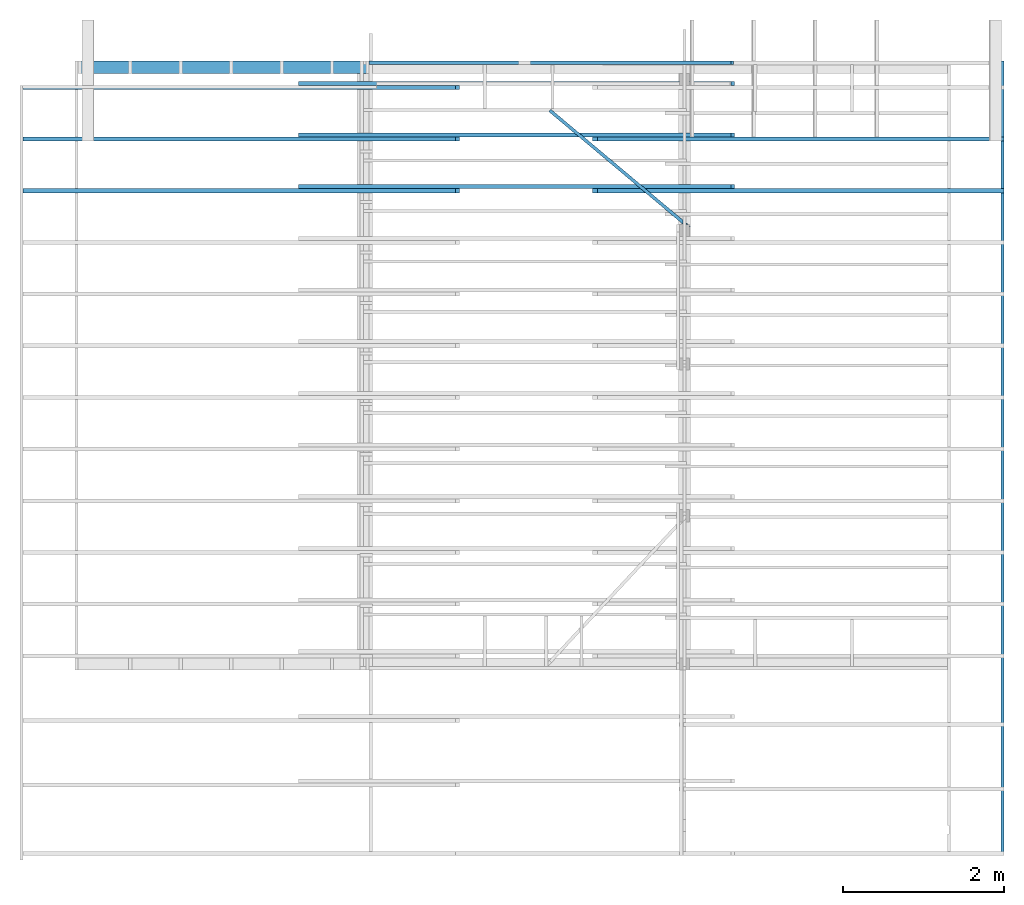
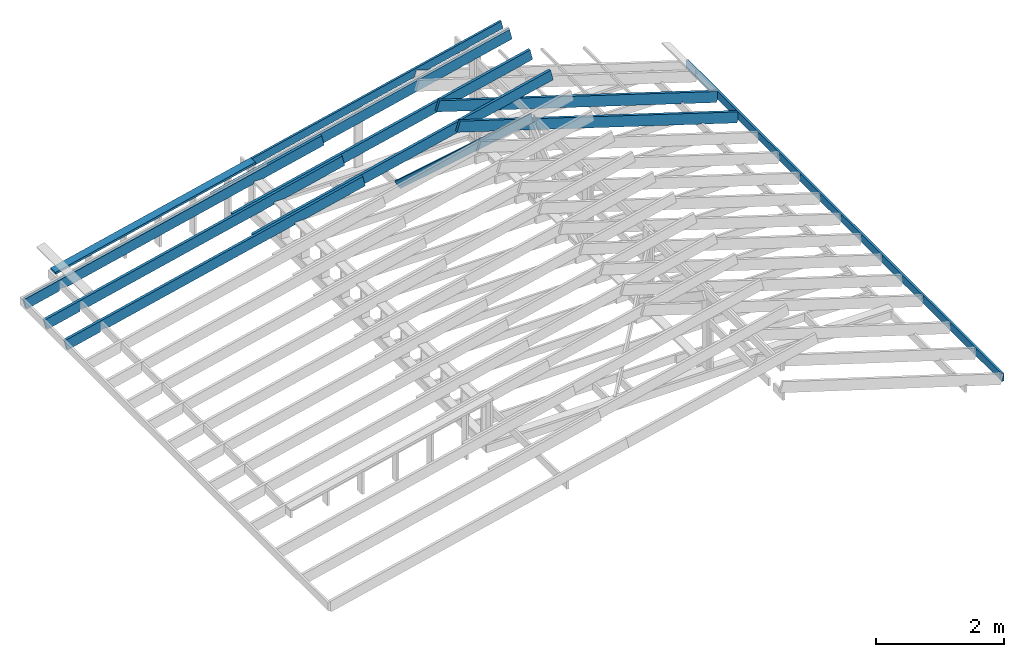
# One storey, part 5 of 6: 12 beams.
"""IFC4 building model written with IfcOpenShell, lengths in millimetres."""

from ifc_helpers import new_model, si_unit, derived_unit, frame, origin_with_axes, place, context, subcontext, project, spatial, polygons, source, transform, mapped, material, type_object, element, save


model = new_model("IFC4")

# Units and contexts
model_context = context("Model", 3, precision=1e-06, world=origin_with_axes())
body_context = subcontext(model_context, "Body", "Model", "MODEL_VIEW")
ifc_project = project(units=[si_unit("LENGTHUNIT", "METRE", prefix="MILLI"), si_unit("AREAUNIT", "SQUARE_METRE"), si_unit("VOLUMEUNIT", "CUBIC_METRE"), si_unit("MASSUNIT", "GRAM", prefix="KILO"), si_unit("ELECTRICVOLTAGEUNIT", "VOLT", prefix="KILO"), si_unit("THERMODYNAMICTEMPERATUREUNIT", "DEGREE_CELSIUS"), si_unit("PRESSUREUNIT", "PASCAL", prefix="MEGA"), si_unit("PLANEANGLEUNIT", "RADIAN"), derived_unit("THERMALCONDUCTANCEUNIT", [(si_unit("POWERUNIT", "WATT"), 1), (si_unit("LENGTHUNIT", "METRE"), -1), (si_unit("THERMODYNAMICTEMPERATUREUNIT", "KELVIN"), -1)]), derived_unit("MASSDENSITYUNIT", [(si_unit("MASSUNIT", "GRAM", prefix="KILO"), 1), (si_unit("VOLUMEUNIT", "CUBIC_METRE"), -1)])], contexts=[model_context])

# Site, building, storey
site_placement = place(None, origin_with_axes())
site = spatial("IfcSite", under=ifc_project, at=site_placement, CompositionType="ELEMENT")
building_placement = place(site_placement, origin_with_axes())
building = spatial("IfcBuilding", under=site, at=building_placement, CompositionType="ELEMENT")
storey_placement = place(building_placement, frame((0.0, 0.0, 2620.0), z_axis=(0.0, 0.0, 1.0), x_axis=(1.0, 0.0, 0.0)))
storey = spatial("IfcBuildingStorey", under=building, at=storey_placement, Name="Кровля", CompositionType="ELEMENT", Elevation=2620.0)

# Beams
ifc_material_1 = material(Name="Древесина жел")
beam_type_1 = type_object("IfcBeamType", Name="Доска 40х150", PredefinedType="BEAM")
shared_shape_1 = source(origin_with_axes(), body_context, "Body", "Tessellation", [
    polygons([(39.99999999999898, -31.899582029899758, 1.4e-14), (25.71674224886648, -52.40841525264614, -1.307e-12), (39.99999999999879, -81.5164140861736, 4e-14), (-1e-13, 3.33e-13, -2674.3665000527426), (39.99999999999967, -81.51641408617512, -2674.366500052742), (39.99999999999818, -149.99999999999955, -2674.3665000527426), (-1.819e-12, -149.9999999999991, -2674.3665000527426), (40.00000000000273, -132.60094016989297, -72.55855526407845), (39.99999999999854, -149.99999999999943, -49.344618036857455), (40.00000000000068, -27.857767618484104, -2635.703725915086), (40.0, 9.09e-13, -2674.3665000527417), (40.000000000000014, -3.4e-14, -41.383476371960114), (40.00000000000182, -102.07149194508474, -114.92925694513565), (0.0, 0.0, 0.0), (-1.833e-12, -149.9999999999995, -48.41103814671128), (9.09e-13, -121.69944072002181, -87.68834659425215), (4.542275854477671, -149.99999999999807, -48.41103814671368), (25.71674224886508, -149.99999999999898, -70.31786388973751), (25.71674224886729, -139.60971645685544, -62.83133166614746)], [[[1, 2, 3]], [[4, 5, 6, 7]], [[8, 1, 3, 9, 6, 5, 10, 11, 12, 13]], [[14, 12, 11, 4]], [[15, 16, 14, 4, 7]], [[17, 15, 7, 6, 9, 18]], [[10, 5, 4]], [[4, 11, 10]], [[14, 16, 13, 12]], [[18, 9, 3, 2, 19]], [[17, 18, 19]], [[15, 17, 19, 8, 13, 16]], [[1, 8, 19, 2]]], closed=True),
    polygons([(39.99999999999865, -121.2337733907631, 6.1e-14), (19.96592859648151, -149.99999999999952, -4.83e-13), (39.99999999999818, -149.99999999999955, -9.09e-13), (39.99999999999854, -149.99999999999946, -20.726988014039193)], [[[1, 2, 3]], [[4, 2, 1]], [[2, 4, 3]], [[4, 1, 3]]], closed=True),
])
beam_1_placement = place(storey_placement, frame((7530.000000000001, 5519.999999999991, 1713.4051771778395), z_axis=(0.621425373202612, -0.52161885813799, 0.584588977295), x_axis=(-0.44775689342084, 0.375843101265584, 0.811329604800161)))
element("IfcBeam", 1, at=beam_1_placement, inside=storey, type_object=beam_type_1, material=ifc_material_1, Name="Балка - Доска 40х150", context=body_context, shape_type="MappedRepresentation", body=[
    mapped(shared_shape_1, transform((0.0, 0.0, 0.0), x_axis=(0.0, -1.0, 0.0), y_axis=(1.0, 0.0, 0.0), z_axis=(0.0, 0.0, 1.0), scale=1.0)),
])
ifc_material_2 = material(Name="Древесина оранж")
beam_type_2 = type_object("IfcBeamType", Name="Доска 50х200", PredefinedType="BEAM")
shared_shape_2 = source(origin_with_axes(), body_context, "Body", "Tessellation", [
    polygons([(-8e-15, -2.13e-13, -4607.735124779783), (-3.638e-12, 22.174739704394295, -4600.756736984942), (-1.819e-12, 34.18218451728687, -4638.911962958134), (-8e-15, -2.19e-13, -4649.669092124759), (0.0, 0.0, -5278.678602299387), (-2.8e-14, 200.0000000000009, -5278.678602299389), (-2.8e-14, 199.9999999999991, -9.09e-13), (0.0, 0.0, 0.0), (-8e-15, -1.27e-13, -720.316293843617), (-5.7e-14, 25.399624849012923, -744.5359803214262), (-8e-15, -1.28e-13, -752.5292390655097), (-50.00000000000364, 22.174739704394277, -4600.756736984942), (-50.0, -9.9e-14, -4607.735124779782), (-50.0, 0.0, 0.0), (-50.00000000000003, 199.9999999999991, -9.09e-13), (-50.00000000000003, 200.0000000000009, -5278.678602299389), (-50.0, 0.0, -5278.678602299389), (-50.0, -1e-13, -4649.669092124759), (-50.00000000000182, 34.182184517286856, -4638.911962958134), (-17.803591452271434, -2.84e-13, -730.2936172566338)], [[[1, 2, 3, 4, 5, 6, 7, 8, 9, 10, 11]], [[12, 13, 14, 15, 16, 17, 18, 19]], [[13, 1, 11, 20, 9, 8, 14]], [[4, 18, 17, 5]], [[20, 11, 10]], [[9, 20, 10]], [[18, 4, 3, 19]], [[12, 19, 3, 2]], [[1, 13, 12, 2]], [[5, 17, 16, 6]], [[15, 7, 6, 16]], [[8, 7, 15, 14]]], closed=True),
])
beam_2_placement = place(storey_placement, frame((6409.770627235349, 5909.999999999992, 1509.9312603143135), z_axis=(-0.953880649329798, 1e-15, 0.300186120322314), x_axis=(0.300186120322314, 0.0, 0.953880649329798)))
element("IfcBeam", 2, at=beam_2_placement, inside=storey, type_object=beam_type_2, material=ifc_material_2, Name="Балка - Доска 50х200", context=body_context, shape_type="MappedRepresentation", body=[
    mapped(shared_shape_2, transform((0.0, 0.0, 0.0), x_axis=(0.0, -1.0, 0.0), y_axis=(1.0, 0.0, 0.0), z_axis=(0.0, 0.0, 1.0), scale=1.0)),
])
shared_shape_3 = source(origin_with_axes(), body_context, "Body", "Tessellation", [
    polygons([(50.000000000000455, 43.089841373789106, -707.6329538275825), (50.0, 2.06e-13, -892.682313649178), (50.0, 4.55e-13, -5499.999999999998), (50.0, 200.00000000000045, -5500.000000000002), (50.0, 200.00000000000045, 0.0), (50.0, 0.0, 0.0), (50.0, 2.08e-13, -716.3066353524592), (50.000000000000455, 4.132081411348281, -698.5614082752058), (-2e-15, -1.9e-14, -892.6823136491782), (6.82e-13, 43.089841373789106, -707.6329538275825), (6.82e-13, 4.132081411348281, -698.5614082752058), (-2e-15, -1.6e-14, -716.3066353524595), (0.0, 0.0, 0.0), (0.0, 200.00000000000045, 0.0), (0.0, 200.0000000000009, -5499.999999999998), (0.0, 0.0, -5500.0)], [[[1, 2, 3, 4, 5, 6, 7, 8]], [[9, 10, 11, 12, 13, 14, 15, 16]], [[2, 9, 16, 3]], [[12, 7, 6, 13]], [[11, 10, 1, 8]], [[7, 12, 11, 8]], [[9, 2, 1, 10]], [[3, 16, 15, 4]], [[14, 5, 4, 15]], [[6, 5, 14, 13]]], closed=True),
])
beam_3_placement = place(storey_placement, frame((2813.077417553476, 6009.999999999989, 615.0417672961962), z_axis=(-0.973943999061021, 0.0, -0.226788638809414), x_axis=(-0.226788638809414, 0.0, 0.973943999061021)))
element("IfcBeam", 3, at=beam_3_placement, inside=storey, type_object=beam_type_2, material=ifc_material_2, Name="Балка - Доска 50х200", context=body_context, shape_type="MappedRepresentation", body=[
    mapped(shared_shape_3, transform((0.0, 0.0, 0.0), x_axis=(0.0, -1.0, 0.0), y_axis=(1.0, 0.0, 0.0), z_axis=(0.0, 0.0, 1.0), scale=1.0)),
])
shared_shape_4 = source(origin_with_axes(), body_context, "Body", "Tessellation", [
    polygons([(0.0, -2.76e-13, -611.6640995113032), (-1.819e-12, 38.957759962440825, -620.7356450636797), (-1.819e-12, 4.939464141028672, -766.8272449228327), (0.0, -2.84e-13, -765.6770613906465), (0.0, -4.61e-13, -4216.306635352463), (4.55e-13, 4.132081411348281, -4198.561408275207), (4.55e-13, 43.089841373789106, -4207.632953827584), (0.0, -4.71e-13, -4392.682313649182), (0.0, -1.364e-12, -5500.000000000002), (0.0, 199.99999999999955, -5500.000000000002), (0.0, 199.99999999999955, 0.0), (0.0, 0.0, 0.0), (-50.00000000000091, 38.957759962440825, -620.7356450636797), (-50.0, -4.7e-14, -611.6640995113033), (-50.0, 0.0, 0.0), (-50.0, 199.99999999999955, 0.0), (-50.0, 199.9999999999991, -5500.000000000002), (-50.0, -4.55e-13, -5500.000000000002), (-50.0, -3.35e-13, -4392.682313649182), (-49.999999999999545, 43.089841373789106, -4207.632953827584), (-49.999999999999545, 4.132081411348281, -4198.561408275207), (-50.0, -3.21e-13, -4216.306635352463), (-50.0, -5.8e-14, -765.6770613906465), (-50.00000000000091, 4.939464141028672, -766.8272449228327)], [[[1, 2, 3, 4, 5, 6, 7, 8, 9, 10, 11, 12]], [[13, 14, 15, 16, 17, 18, 19, 20, 21, 22, 23, 24]], [[14, 1, 12, 15]], [[4, 23, 22, 5]], [[8, 19, 18, 9]], [[21, 20, 7, 6]], [[5, 22, 21, 6]], [[19, 8, 7, 20]], [[23, 4, 3, 24]], [[13, 24, 3, 2]], [[1, 14, 13, 2]], [[9, 18, 17, 10]], [[16, 11, 10, 17]], [[12, 11, 16, 15]]], closed=True),
])
beam_4_placement = place(storey_placement, frame((-595.7265791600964, 5909.999999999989, -178.7184685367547), z_axis=(-0.973943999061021, 0.0, -0.226788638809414), x_axis=(-0.226788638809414, 0.0, 0.973943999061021)))
element("IfcBeam", 4, at=beam_4_placement, inside=storey, type_object=beam_type_2, material=ifc_material_2, Name="Балка - Доска 50х200", context=body_context, shape_type="MappedRepresentation", body=[
    mapped(shared_shape_4, transform((0.0, 0.0, 0.0), x_axis=(0.0, -1.0, 0.0), y_axis=(1.0, 0.0, 0.0), z_axis=(0.0, 0.0, 1.0), scale=1.0)),
])
shared_shape_5 = source(origin_with_axes(), body_context, "Body", "Tessellation", [
    polygons([(-8e-15, -2.13e-13, -4607.735124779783), (-1.819e-12, 22.174739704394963, -4600.756736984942), (-1.819e-12, 34.18218451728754, -4638.911962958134), (-8e-15, -2.19e-13, -4649.669092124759), (0.0, 0.0, -5278.678602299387), (-2.8e-14, 200.0000000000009, -5278.678602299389), (-2.8e-14, 199.9999999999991, -9.09e-13), (0.0, 0.0, 0.0), (-50.00000000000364, 22.17473970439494, -4600.756736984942), (-50.0, -9.9e-14, -4607.735124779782), (-50.0, 0.0, 0.0), (-50.00000000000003, 199.9999999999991, -9.09e-13), (-50.00000000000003, 200.0000000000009, -5278.678602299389), (-50.0, 0.0, -5278.678602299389), (-50.0, -1e-13, -4649.669092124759), (-50.00000000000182, 34.182184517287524, -4638.911962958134)], [[[1, 2, 3, 4, 5, 6, 7, 8]], [[9, 10, 11, 12, 13, 14, 15, 16]], [[10, 1, 8, 11]], [[4, 15, 14, 5]], [[15, 4, 3, 16]], [[9, 16, 3, 2]], [[1, 10, 9, 2]], [[5, 14, 13, 6]], [[12, 7, 6, 13]], [[8, 7, 12, 11]]], closed=True),
])
beam_5_placement = place(storey_placement, frame((6409.770627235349, 6549.999999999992, 1509.9312603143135), z_axis=(-0.953880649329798, 1e-15, 0.300186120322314), x_axis=(0.300186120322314, 0.0, 0.953880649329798)))
element("IfcBeam", 5, at=beam_5_placement, inside=storey, type_object=beam_type_2, material=ifc_material_2, Name="Балка - Доска 50х200", context=body_context, shape_type="MappedRepresentation", body=[
    mapped(shared_shape_5, transform((0.0, 0.0, 0.0), x_axis=(0.0, -1.0, 0.0), y_axis=(1.0, 0.0, 0.0), z_axis=(0.0, 0.0, 1.0), scale=1.0)),
])
shared_shape_6 = source(origin_with_axes(), body_context, "Body", "Tessellation", [
    polygons([(50.000000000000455, 43.089841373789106, -707.6329538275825), (50.0, 2.06e-13, -892.6823136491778), (50.0, 4.55e-13, -5499.999999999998), (50.0, 200.00000000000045, -5500.000000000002), (50.0, 200.00000000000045, 0.0), (50.0, 0.0, 0.0), (50.0, 2.08e-13, -716.306635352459), (50.000000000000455, 4.132081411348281, -698.5614082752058), (1e-15, -1.9e-14, -892.682313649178), (3.41e-13, 43.089841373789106, -707.6329538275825), (3.41e-13, 4.132081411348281, -698.5614082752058), (2e-15, -1.6e-14, -716.3066353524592), (0.0, 0.0, 0.0), (0.0, 200.00000000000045, 0.0), (0.0, 200.0000000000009, -5499.999999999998), (0.0, 0.0, -5500.0)], [[[1, 2, 3, 4, 5, 6, 7, 8]], [[9, 10, 11, 12, 13, 14, 15, 16]], [[2, 9, 16, 3]], [[12, 7, 6, 13]], [[11, 10, 1, 8]], [[7, 12, 11, 8]], [[9, 2, 1, 10]], [[3, 16, 15, 4]], [[14, 5, 4, 15]], [[6, 5, 14, 13]]], closed=True),
])
beam_6_placement = place(storey_placement, frame((2813.077417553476, 6649.999999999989, 615.0417672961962), z_axis=(-0.973943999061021, 0.0, -0.226788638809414), x_axis=(-0.226788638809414, 0.0, 0.973943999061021)))
element("IfcBeam", 6, at=beam_6_placement, inside=storey, type_object=beam_type_2, material=ifc_material_2, Name="Балка - Доска 50х200", context=body_context, shape_type="MappedRepresentation", body=[
    mapped(shared_shape_6, transform((0.0, 0.0, 0.0), x_axis=(0.0, -1.0, 0.0), y_axis=(1.0, 0.0, 0.0), z_axis=(0.0, 0.0, 1.0), scale=1.0)),
])
shared_shape_7 = source(origin_with_axes(), body_context, "Body", "Tessellation", [
    polygons([(0.0, -2.76e-13, -611.6640995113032), (-3.638e-12, 38.957759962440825, -620.7356450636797), (-3.638e-12, 4.939464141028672, -766.8272449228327), (0.0, -2.84e-13, -765.6770613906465), (0.0, -4.61e-13, -4216.306635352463), (3.41e-13, 4.132081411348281, -4198.561408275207), (4.55e-13, 43.089841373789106, -4207.632953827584), (0.0, -4.71e-13, -4392.682313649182), (0.0, -1.364e-12, -5500.000000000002), (0.0, 199.99999999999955, -5500.000000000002), (0.0, 199.99999999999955, 0.0), (0.0, 0.0, 0.0), (-50.00000000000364, 38.957759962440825, -620.7356450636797), (-50.0, -4.7e-14, -611.6640995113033), (-50.0, 0.0, 0.0), (-50.0, 199.99999999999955, 0.0), (-50.0, 199.9999999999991, -5500.000000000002), (-50.0, -4.55e-13, -5500.000000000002), (-50.0, -3.35e-13, -4392.682313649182), (-49.999999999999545, 43.089841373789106, -4207.632953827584), (-49.99999999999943, 4.132081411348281, -4198.561408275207), (-50.0, -3.21e-13, -4216.306635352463), (-50.0, -5.8e-14, -765.6770613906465), (-50.00000000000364, 4.939464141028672, -766.8272449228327)], [[[1, 2, 3, 4, 5, 6, 7, 8, 9, 10, 11, 12]], [[13, 14, 15, 16, 17, 18, 19, 20, 21, 22, 23, 24]], [[14, 1, 12, 15]], [[4, 23, 22, 5]], [[8, 19, 18, 9]], [[21, 20, 7, 6]], [[5, 22, 21, 6]], [[19, 8, 7, 20]], [[23, 4, 3, 24]], [[13, 24, 3, 2]], [[1, 14, 13, 2]], [[9, 18, 17, 10]], [[16, 11, 10, 17]], [[12, 11, 16, 15]]], closed=True),
])
beam_7_placement = place(storey_placement, frame((-595.7265791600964, 6549.999999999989, -178.7184685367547), z_axis=(-0.973943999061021, 0.0, -0.226788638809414), x_axis=(-0.226788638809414, 0.0, 0.973943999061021)))
element("IfcBeam", 7, at=beam_7_placement, inside=storey, type_object=beam_type_2, material=ifc_material_2, Name="Балка - Доска 50х200", context=body_context, shape_type="MappedRepresentation", body=[
    mapped(shared_shape_7, transform((0.0, 0.0, 0.0), x_axis=(0.0, -1.0, 0.0), y_axis=(1.0, 0.0, 0.0), z_axis=(0.0, 0.0, 1.0), scale=1.0)),
])
shared_shape_8 = source(origin_with_axes(), body_context, "Body", "Tessellation", [
    polygons([(50.00000000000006, 43.0898413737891, -707.6329538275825), (50.0, 2.06e-13, -892.682313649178), (50.0, 1.91e-13, -4802.044662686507), (50.0, 9.071545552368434, -4804.157025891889), (50.0, 2.01e-13, -4843.114785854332), (50.0, 4.55e-13, -5499.999999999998), (50.0, 200.00000000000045, -5500.000000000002), (50.0, 200.00000000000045, 0.0), (50.0, 0.0, 0.0), (50.0, 2.08e-13, -716.3066353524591), (50.00000000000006, 4.132081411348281, -698.5614082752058), (-2e-15, -1.9e-14, -892.6823136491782), (5.7e-14, 43.0898413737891, -707.6329538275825), (7.1e-14, 4.132081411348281, -698.5614082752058), (-2e-15, -1.6e-14, -716.3066353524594), (0.0, 0.0, 0.0), (0.0, 200.00000000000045, 0.0), (0.0, 200.0000000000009, -5499.999999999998), (0.0, 0.0, -5500.0), (-2e-15, -1.05e-13, -4843.114785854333), (-2e-15, 9.07154555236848, -4804.157025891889), (-2e-15, -1.05e-13, -4802.044662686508)], [[[1, 2, 3, 4, 5, 6, 7, 8, 9, 10, 11]], [[12, 13, 14, 15, 16, 17, 18, 19, 20, 21, 22]], [[2, 12, 22, 3]], [[15, 10, 9, 16]], [[5, 20, 19, 6]], [[20, 5, 4, 21]], [[3, 22, 21, 4]], [[14, 13, 1, 11]], [[10, 15, 14, 11]], [[12, 2, 1, 13]], [[6, 19, 18, 7]], [[17, 8, 7, 18]], [[9, 8, 17, 16]]], closed=True),
])
beam_8_placement = place(storey_placement, frame((2813.077417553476, 7289.999999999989, 615.0417672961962), z_axis=(-0.973943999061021, 0.0, -0.226788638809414), x_axis=(-0.226788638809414, 0.0, 0.973943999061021)))
element("IfcBeam", 8, at=beam_8_placement, inside=storey, type_object=beam_type_2, material=ifc_material_2, Name="Балка - Доска 50х200", context=body_context, shape_type="MappedRepresentation", body=[
    mapped(shared_shape_8, transform((0.0, 0.0, 0.0), x_axis=(0.0, -1.0, 0.0), y_axis=(1.0, 0.0, 0.0), z_axis=(0.0, 0.0, 1.0), scale=1.0)),
])
shared_shape_9 = source(origin_with_axes(), body_context, "Body", "Tessellation", [
    polygons([(0.0, -2.76e-13, -611.6640995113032), (-3.638e-12, 38.957759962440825, -620.7356450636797), (-3.638e-12, 4.939464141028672, -766.8272449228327), (0.0, -2.84e-13, -765.6770613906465), (0.0, -4.61e-13, -4216.306635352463), (1.14e-13, 4.132081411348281, -4198.561408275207), (1.14e-13, 43.089841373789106, -4207.632953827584), (0.0, -4.71e-13, -4392.682313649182), (0.0, -1.364e-12, -5500.000000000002), (0.0, 199.99999999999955, -5500.000000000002), (0.0, 199.99999999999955, 0.0), (0.0, 0.0, 0.0), (-50.00000000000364, 38.957759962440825, -620.7356450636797), (-50.0, -4.7e-14, -611.6640995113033), (-50.0, 0.0, 0.0), (-50.0, 199.99999999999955, 0.0), (-50.0, 199.9999999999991, -5500.000000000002), (-50.0, -4.55e-13, -5500.000000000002), (-50.0, -3.35e-13, -4392.682313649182), (-49.99999999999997, 43.089841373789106, -4207.632953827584), (-49.99999999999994, 4.132081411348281, -4198.561408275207), (-50.0, -3.21e-13, -4216.306635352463), (-50.0, -5.8e-14, -765.6770613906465), (-50.00000000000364, 4.939464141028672, -766.8272449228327)], [[[1, 2, 3, 4, 5, 6, 7, 8, 9, 10, 11, 12]], [[13, 14, 15, 16, 17, 18, 19, 20, 21, 22, 23, 24]], [[14, 1, 12, 15]], [[4, 23, 22, 5]], [[8, 19, 18, 9]], [[21, 20, 7, 6]], [[5, 22, 21, 6]], [[19, 8, 7, 20]], [[23, 4, 3, 24]], [[13, 24, 3, 2]], [[1, 14, 13, 2]], [[9, 18, 17, 10]], [[16, 11, 10, 17]], [[12, 11, 16, 15]]], closed=True),
])
beam_9_placement = place(storey_placement, frame((-595.7265791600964, 7189.999999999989, -178.7184685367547), z_axis=(-0.973943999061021, 0.0, -0.226788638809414), x_axis=(-0.226788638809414, 0.0, 0.973943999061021)))
element("IfcBeam", 9, at=beam_9_placement, inside=storey, type_object=beam_type_2, material=ifc_material_2, Name="Балка - Доска 50х200", context=body_context, shape_type="MappedRepresentation", body=[
    mapped(shared_shape_9, transform((0.0, 0.0, 0.0), x_axis=(0.0, -1.0, 0.0), y_axis=(1.0, 0.0, 0.0), z_axis=(0.0, 0.0, 1.0), scale=1.0)),
])
ifc_material_3 = material(Name="Древесина конструктивная")
shared_shape_10 = source(origin_with_axes(), body_context, "Body", "Tessellation", [
    polygons([(-3.638e-12, -39.16629625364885, -3648.6877401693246), (0.0, -39.999999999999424, -3648.4936073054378), (0.0, -39.99999999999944, -3202.5101019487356), (-3.638e-12, -39.28855467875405, -3199.4547994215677), (0.0, -39.99999999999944, -3199.2891351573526), (0.0, -39.9999999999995, -1306.4715602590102), (-3.638e-12, -32.85577650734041, -1275.7906864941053), (0.0, -39.9999999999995, -1274.1271116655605), (0.0, -39.999999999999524, -636.2439827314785), (-3.638e-12, -39.1523651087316, -632.6038139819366), (0.0, -39.999999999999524, -632.4064371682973), (0.0, -39.999999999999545, -27.747892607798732), (0.0, -31.81373772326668, 7.408017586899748), (9.09e-13, -4.55e-13, 0.0), (0.0, 4.55e-13, -3698.8779678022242), (0.0, -39.999999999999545, -3698.8779678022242), (0.0, -39.999999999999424, -3652.268081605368), (150.0, -39.99999999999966, -3648.4936073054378), (149.99999999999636, -39.16629625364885, -3648.6877401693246), (150.0, -39.99999999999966, -3652.268081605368), (150.0, -39.999999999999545, -3698.877967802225), (150.0, 9.09e-13, -3698.877967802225), (150.0000000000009, -4.55e-13, 0.0), (150.0, -31.813737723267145, 7.408017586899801), (150.0, -39.99999999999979, -27.74789260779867), (150.0, -39.999999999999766, -632.4064371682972), (149.99999999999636, -39.1523651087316, -632.6038139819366), (150.0, -39.999999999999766, -636.2439827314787), (150.0, -39.999999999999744, -1274.1271116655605), (149.99999999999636, -32.85577650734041, -1275.7906864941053), (150.0, -39.999999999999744, -1306.4715602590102), (150.0, -39.99999999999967, -3199.289135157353), (149.99999999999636, -39.28855467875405, -3199.4547994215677), (150.0, -39.99999999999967, -3202.5101019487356)], [[[1, 2, 3, 4, 5, 6, 7, 8, 9, 10, 11, 12, 13, 14, 15, 16, 17]], [[18, 19, 20, 21, 22, 23, 24, 25, 26, 27, 28, 29, 30, 31, 32, 33, 34]], [[2, 18, 34, 3]], [[20, 17, 16, 21]], [[25, 12, 11, 26]], [[28, 9, 8, 29]], [[31, 6, 5, 32]], [[13, 24, 23, 14]], [[3, 34, 33, 4]], [[32, 5, 4, 33]], [[6, 31, 30, 7]], [[29, 8, 7, 30]], [[9, 28, 27, 10]], [[26, 11, 10, 27]], [[24, 13, 12, 25]], [[17, 20, 19, 1]], [[18, 2, 1, 19]], [[15, 14, 23, 22]], [[16, 15, 22, 21]]], closed=True),
])
beam_10_placement = place(storey_placement, frame((40.00000000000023, 7539.999999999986, 174.66485316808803), z_axis=(-0.973943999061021, 0.0, -0.226788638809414), x_axis=(0.0, -1.0, 0.0)))
element("IfcBeam", 10, at=beam_10_placement, inside=storey, type_object=beam_type_1, material=ifc_material_3, Name="Балка - Доска 40х150", context=body_context, shape_type="MappedRepresentation", body=[
    mapped(shared_shape_10, transform((0.0, 0.0, 0.0), x_axis=(1.0, 0.0, 0.0), y_axis=(0.0, 1.0, 0.0), z_axis=(0.0, 0.0, 1.0), scale=1.0)),
])
shared_shape_11 = source(origin_with_axes(), body_context, "Body", "Tessellation", [
    polygons([(-9.09e-13, 8e-15, 0.0), (39.99999999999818, 0.0, 0.0), (37.58244926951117, -11.828069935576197, 4e-15), (39.99999999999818, -149.99999999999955, 4.55e-13), (-1.773e-12, -132.49394911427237, 2.05e-13), (-1.819e-12, -149.99999999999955, 4.55e-13), (-4.86e-13, 4.1e-14, -2500.0000003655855), (0.418164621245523, -3.41e-13, -2500.0000025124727), (0.421013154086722, 0.0, -2450.000002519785), (-4.86e-13, 3.4e-14, -2450.0000003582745), (-4.86e-13, 4.4e-14, -1650.0000002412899), (0.076992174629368, -9.09e-13, -1650.000000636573), (0.079867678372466, -1.14e-13, -1600.0000006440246), (-4.86e-13, 3.7e-14, -1600.0000002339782), (-4.86e-13, 4e-14, -850.0000001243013), (0.123000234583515, -1.251e-12, -850.0000007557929), (0.125875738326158, -5.68e-13, -800.0000007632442), (-4.86e-13, 4.7e-14, -800.0000001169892), (-4.86e-13, 3.6e-14, -50.00000000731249), (0.169008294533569, -7.96e-13, -50.00000087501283), (39.99999999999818, 0.0, -9840.000001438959), (-1.819e-12, 0.0, -9840.000001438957), (-4.86e-13, 4e-14, -9540.000001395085), (0.017091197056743, -2.27e-13, -9540.000001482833), (0.019939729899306, -1.14e-13, -9490.000001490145), (-4.86e-13, 4.7e-14, -9490.000001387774), (-4.86e-13, 4.6e-14, -8900.000001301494), (0.053552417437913, -2.27e-13, -8900.000001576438), (0.056400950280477, -2.27e-13, -8850.00000158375), (-4.86e-13, 5.2e-14, -8850.000001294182), (-4.86e-13, 3.7e-14, -8260.000001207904), (0.090013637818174, 0.0, -8260.000001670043), (0.092862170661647, -3.41e-13, -8210.000001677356), (-4.86e-13, 2.9e-14, -8210.000001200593), (-4.86e-13, 2.8e-14, -7620.000001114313), (0.126474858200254, -4.55e-13, -7620.000001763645), (0.129323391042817, -3.41e-13, -7570.000001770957), (-4.86e-13, 3.5e-14, -7570.0000011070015), (-4.86e-13, 3.3e-14, -6980.000001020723), (0.162936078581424, -4.55e-13, -6980.000001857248), (0.165784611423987, -3.41e-13, -6930.0000018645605), (-4.86e-13, 4e-14, -6930.000001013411), (-4.86e-13, 3.8e-14, -6340.000000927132), (0.199397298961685, -2.27e-13, -6340.0000019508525), (0.202245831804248, -1.14e-13, -6290.000001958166), (-4.86e-13, 4.5e-14, -6290.000000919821), (-4.86e-13, 2.9e-14, -5700.000000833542), (0.235858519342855, -2.27e-13, -5700.000002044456), (0.238707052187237, -7.96e-13, -5650.000002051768), (-4.86e-13, 3.6e-14, -5650.0000008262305), (-4.86e-13, 3.4e-14, -5060.00000073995), (0.272319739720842, -2.27e-13, -5060.000002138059), (0.27516827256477, -5.68e-13, -5010.000002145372), (-4.86e-13, 2.7e-14, -5010.00000073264), (-4.86e-13, 4e-14, -4420.00000064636), (0.308780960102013, -2.27e-13, -4420.000002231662), (0.311629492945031, -3.41e-13, -4370.000002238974), (-4.86e-13, 3.2e-14, -4370.000000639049), (-4.86e-13, 4.5e-14, -3780.000000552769), (0.345242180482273, 0.0, -3780.0000023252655), (0.348090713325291, -1.14e-13, -3730.0000023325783), (-4.86e-13, 3.8e-14, -3730.0000005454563), (-4.86e-13, 3.6e-14, -3140.0000004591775), (0.381703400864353, -2.27e-13, -3140.0000024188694), (0.384551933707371, -5.68e-13, -3090.000002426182), (-4.86e-13, 4.3e-14, -3090.000000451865), (-1.828e-12, -133.21617054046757, -2499.9978272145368), (-1.913e-12, -133.21616982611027, -3089.9978273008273), (-1.858e-12, -133.21616976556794, -3139.9978273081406), (-1.879e-12, -133.2161690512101, -3729.9978273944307), (-1.364e-12, -133.21616899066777, -3779.997827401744), (-1.881e-12, -133.21616827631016, -4369.997827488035), (-1.363e-12, -133.21616821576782, -4419.997827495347), (-1.928e-12, -133.2161675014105, -5009.997827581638), (-1.847e-12, -133.21616744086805, -5059.997827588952), (-1.992e-12, -133.21616672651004, -5649.997827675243), (-1.952e-12, -133.21616666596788, -5699.997827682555), (-1.103e-12, -133.21616595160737, -6289.997827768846), (-2.404e-12, -133.2161658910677, -6339.997827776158), (-1.992e-12, -133.21616517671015, -6929.997827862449), (-1.04e-12, -133.21616511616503, -6979.997827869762), (-1.99e-12, -133.2161644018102, -7569.997827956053), (-1.04e-12, -133.21616434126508, -7619.997827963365), (-2.027e-12, -133.2161636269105, -8209.997828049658), (-1.07e-12, -133.21616356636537, -8259.99782805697), (-2.514e-12, -133.21616285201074, -8849.997828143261), (-2.45e-12, -133.21616279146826, -8899.997828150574), (-2.508e-12, -133.21616207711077, -9489.997828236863), (-1.961e-12, -133.2161620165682, -9539.997828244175), (-1.819e-12, -149.99999999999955, -9840.000001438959), (-7.5e-13, -132.49394056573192, -49.99783863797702), (-5.4e-14, -132.4938123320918, -799.9978387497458), (1.91e-13, -132.49380378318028, -849.9978387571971), (-4.52e-13, -132.49367554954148, -1599.997838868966), (-3.98e-13, -132.49366700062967, -1649.997838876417), (-1.927e-12, -133.2161706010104, -2449.9978272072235), (37.62426669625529, -11.69353325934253, -1600.0000026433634), (37.62400999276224, -11.694348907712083, -1650.0000026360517), (37.62837395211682, -11.680482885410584, -800.000002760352), (37.62811724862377, -11.681298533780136, -850.0000027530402), (37.632481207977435, -11.667432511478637, -2.877340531e-06), (37.632224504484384, -11.66824815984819, -50.000002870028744), (38.14714330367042, -11.998626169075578, -9490.000001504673), (38.14688660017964, -11.999441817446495, -9540.000001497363), (38.150429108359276, -11.988185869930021, -8850.000001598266), (38.1501724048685, -11.989001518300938, -8900.000001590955), (38.153714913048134, -11.977745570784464, -8210.000001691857), (38.15345820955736, -11.978561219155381, -8260.000001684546), (38.15700071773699, -11.967305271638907, -7570.000001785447), (38.156744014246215, -11.968120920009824, -7620.000001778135), (38.16028652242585, -11.95686497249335, -6930.000001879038), (38.16002981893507, -11.957680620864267, -6980.0000018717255), (38.16357232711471, -11.946424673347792, -6290.000001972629), (38.16331562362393, -11.94724032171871, -6340.000001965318), (38.166858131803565, -11.935984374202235, -5650.00000206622), (38.16660142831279, -11.936800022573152, -5700.000002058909), (38.17014393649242, -11.925544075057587, -5010.000002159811), (38.169887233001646, -11.926359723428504, -5060.000002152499), (38.17342974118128, -11.91510377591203, -4370.000002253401), (38.1731730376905, -11.915919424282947, -4420.00000224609), (38.17671554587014, -11.904663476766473, -3730.0000023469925), (38.17645884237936, -11.90547912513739, -3780.0000023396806), (38.180001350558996, -11.894223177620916, -3090.0000024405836), (38.17974464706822, -11.895038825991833, -3140.0000024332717), (38.183287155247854, -11.883782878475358, -2450.000002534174), (38.18303045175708, -11.884598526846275, -2500.0000025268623), (39.99999999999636, -149.99999999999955, -9840.000001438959)], [[[1, 1, 2]], [[1, 3, 2]], [[2, 3, 4]], [[3, 5, 4]], [[4, 5, 6]], [[7, 8, 9, 10, 11, 12, 13, 14, 15, 16, 17, 18, 19, 20, 1, 2, 21, 22, 23, 24, 25, 26, 27, 28, 29, 30, 31, 32, 33, 34, 35, 36, 37, 38, 39, 40, 41, 42, 43, 44, 45, 46, 47, 48, 49, 50, 51, 52, 53, 54, 55, 56, 57, 58, 59, 60, 61, 62, 63, 64, 65, 66]], [[67, 7, 66, 68, 69, 63, 62, 70, 71, 59, 58, 72, 73, 55, 54, 74, 75, 51, 50, 76, 77, 47, 46, 78, 79, 43, 42, 80, 81, 39, 38, 82, 83, 35, 34, 84, 85, 31, 30, 86, 87, 27, 26, 88, 89, 23, 22, 90, 6, 5, 91, 19, 18, 92, 93, 15, 14, 94, 95, 11, 10, 96]], [[95, 94, 97, 98]], [[94, 14, 13, 97]], [[13, 12, 98, 97]], [[11, 95, 98, 12]], [[93, 92, 99, 100]], [[92, 18, 17, 99]], [[17, 16, 100, 99]], [[15, 93, 100, 16]], [[91, 5, 3, 101, 102]], [[101, 3, 1]], [[3, 1, 1]], [[1, 20, 102, 101]], [[19, 91, 102, 20]], [[89, 88, 103, 104]], [[88, 26, 25, 103]], [[25, 24, 104, 103]], [[23, 89, 104, 24]], [[87, 86, 105, 106]], [[86, 30, 29, 105]], [[29, 28, 106, 105]], [[27, 87, 106, 28]], [[85, 84, 107, 108]], [[84, 34, 33, 107]], [[33, 32, 108, 107]], [[31, 85, 108, 32]], [[83, 82, 109, 110]], [[82, 38, 37, 109]], [[37, 36, 110, 109]], [[35, 83, 110, 36]], [[81, 80, 111, 112]], [[80, 42, 41, 111]], [[41, 40, 112, 111]], [[39, 81, 112, 40]], [[79, 78, 113, 114]], [[78, 46, 45, 113]], [[45, 44, 114, 113]], [[43, 79, 114, 44]], [[77, 76, 115, 116]], [[76, 50, 49, 115]], [[49, 48, 116, 115]], [[47, 77, 116, 48]], [[75, 74, 117, 118]], [[74, 54, 53, 117]], [[53, 52, 118, 117]], [[51, 75, 118, 52]], [[73, 72, 119, 120]], [[72, 58, 57, 119]], [[57, 56, 120, 119]], [[55, 73, 120, 56]], [[71, 70, 121, 122]], [[70, 62, 61, 121]], [[61, 60, 122, 121]], [[59, 71, 122, 60]], [[69, 68, 123, 124]], [[68, 66, 65, 123]], [[65, 64, 124, 123]], [[63, 69, 124, 64]], [[67, 96, 125, 126]], [[96, 10, 9, 125]], [[9, 8, 126, 125]], [[7, 67, 126, 8]], [[4, 6, 90, 127]], [[2, 4, 127, 21]], [[127, 90, 22, 21]]], closed=True),
])
beam_11_placement = place(storey_placement, frame((11466.841358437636, -2300.0000000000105, 127.96515623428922), z_axis=(-5.134069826e-06, -0.999999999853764, -1.6312967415e-05), x_axis=(-8.3752e-11, -1.6312967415e-05, 0.999999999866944)))
element("IfcBeam", 11, at=beam_11_placement, inside=storey, type_object=beam_type_1, material=ifc_material_1, Name="Балка - Доска 40х150", context=body_context, shape_type="MappedRepresentation", body=[
    mapped(shared_shape_11, transform((0.0, 0.0, 0.0), x_axis=(0.0, -1.0, 0.0), y_axis=(1.0, 0.0, 0.0), z_axis=(0.0, 0.0, 1.0), scale=1.0)),
])
shared_shape_12 = source(origin_with_axes(), body_context, "Body", "Tessellation", [
    polygons([(40.0, -39.52716051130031, -3023.894295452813), (40.0, -149.99999999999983, -3210.8659574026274), (40.0, -149.99999999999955, -4601.8166228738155), (40.0, 4.55e-13, -4601.8166228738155), (40.0, 0.0, 0.0), (40.0, -149.99999999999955, 0.0), (40.0, -149.99999999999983, -2958.621044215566), (0.0, -149.99999999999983, -3210.865957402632), (-7.198e-12, -39.52716051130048, -3023.894295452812), (0.0, -149.99999999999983, -2958.6210442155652), (0.0, -149.99999999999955, 0.0), (0.0, 0.0, 0.0), (0.0, 4.55e-13, -4601.8166228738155), (0.0, -149.99999999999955, -4601.8166228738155)], [[[1, 2, 3, 4, 5, 6, 7]], [[8, 9, 10, 11, 12, 13, 14]], [[2, 8, 14, 3]], [[10, 7, 6, 11]], [[7, 10, 9, 1]], [[8, 2, 1, 9]], [[3, 14, 13, 4]], [[12, 5, 4, 13]], [[6, 5, 12, 11]]], closed=True),
])
beam_12_placement = place(storey_placement, frame((3642.5000000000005, 7539.999999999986, 1013.5283526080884), z_axis=(-0.97394399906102, 0.0, -0.226788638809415), x_axis=(-0.226788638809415, 0.0, 0.97394399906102)))
element("IfcBeam", 12, at=beam_12_placement, inside=storey, type_object=beam_type_1, material=ifc_material_1, Name="Балка - Доска 40х150", context=body_context, shape_type="MappedRepresentation", body=[
    mapped(shared_shape_12, transform((0.0, 0.0, 0.0), x_axis=(0.0, -1.0, 0.0), y_axis=(1.0, 0.0, 0.0), z_axis=(0.0, 0.0, 1.0), scale=1.0)),
])

save(model, "model.ifc")
